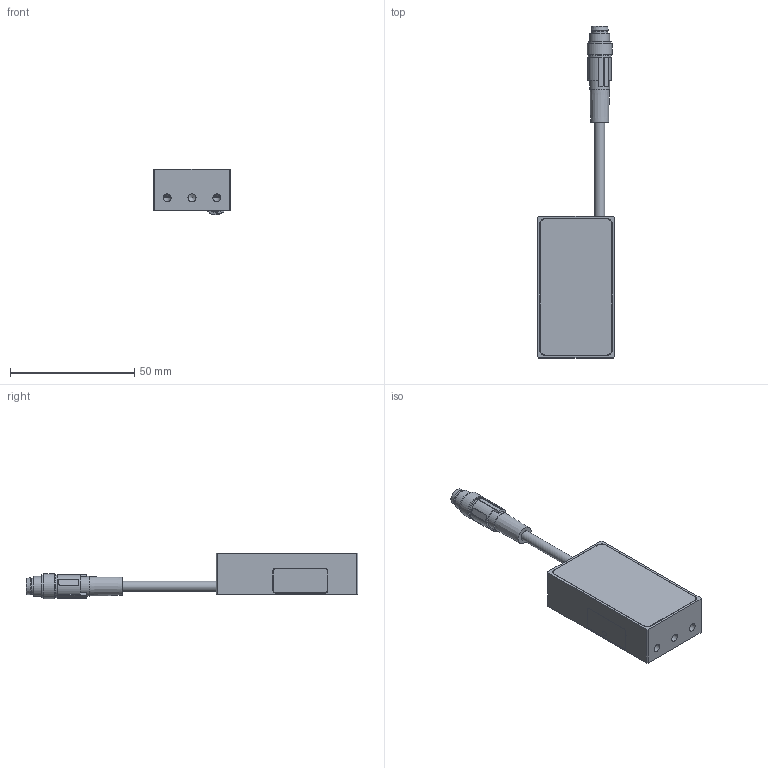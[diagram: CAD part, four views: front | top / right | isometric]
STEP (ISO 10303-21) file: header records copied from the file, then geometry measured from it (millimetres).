
FILE_DESCRIPTION(/* description */ (''),/* implementation_level */ '2;1');
FILE_NAME(/* name */ '10X.0101.YY_BB50',/* time_stamp */ '2024-08-21T09:03:53+02:00',/* author */ (''),/* organization */ ('iiM AG'),/* preprocessor_version */ 'ST-DEVELOPER v16.7',/* originating_system */ 'DEX',/* authorisation */ $);
FILE_SCHEMA (('CONFIG_CONTROL_DESIGN'));
Length unit declared in the file: millimetre
Products named in the file (1): bb50
Bounding box: 31 x 133.34 x 18.32 mm (x, y, z)
Volume: 19208.6 mm3; surface area: 15222 mm2
Topology: 2 solids, 2 shells, 204 faces, 527 edges, 342 vertices
Faces by surface type: plane 97, cylinder 90, cone 12, bspline 4, torus 1
Full cylindrical faces by diameter (mm): 1 x4, 2 x1, 3.242 x10, 4.1 x2, 4.2 x2, 5.7 x1, 6.35 x1, 8 x2, 9 x1, 9.3 x2, 10 x1
Entity records: 8073 total; most frequent: CARTESIAN_POINT 1864, DIRECTION 1018, ORIENTED_EDGE 948, EDGE_CURVE 474, AXIS2_PLACEMENT_3D 391, VERTEX_POINT 326, FACE_BOUND 270, EDGE_LOOP 268
